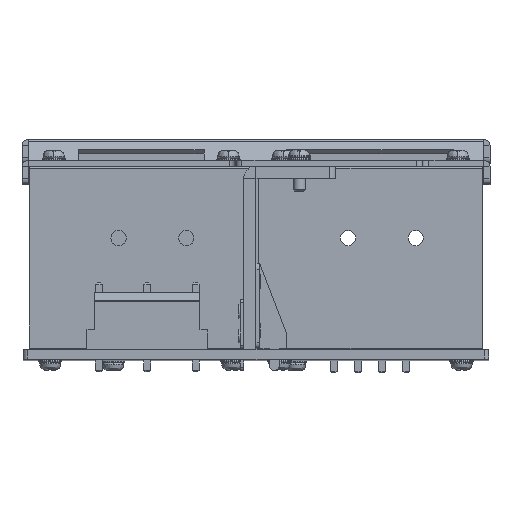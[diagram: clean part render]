
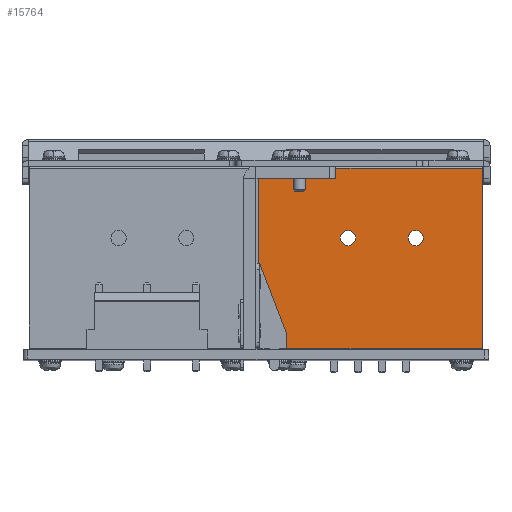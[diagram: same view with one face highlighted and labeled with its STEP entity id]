
A CAD part, top view. The second image highlights one B-rep face of the part: STEP entity #15764.
In plain terms, the highlighted planar face has unit normal (0, 0, 1) as drawn and (-1, 0, 0) by its records, which use the part's own axes.
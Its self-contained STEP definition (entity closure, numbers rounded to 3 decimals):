
#14741=DIRECTION('',(0.,1.,0.));
#14742=VECTOR('',#14741,29.4);
#14743=CARTESIAN_POINT('',(0.,0.3,0.));
#14744=LINE('',#14743,#14742);
#14816=DIRECTION('',(0.,1.,0.));
#14817=VECTOR('',#14816,29.4);
#14818=CARTESIAN_POINT('',(0.,0.3,-36.6));
#14819=LINE('',#14818,#14817);
#14930=DIRECTION('',(0.,0.,-1.));
#14931=VECTOR('',#14930,36.6);
#14932=CARTESIAN_POINT('',(0.,29.7,0.));
#14933=LINE('',#14932,#14931);
#14937=DIRECTION('',(0.,0.,-1.));
#14938=VECTOR('',#14937,36.6);
#14939=CARTESIAN_POINT('',(0.,0.3,0.));
#14940=LINE('',#14939,#14938);
#14944=CARTESIAN_POINT('',(0.,18.3,-22.));
#14945=DIRECTION('',(-1.,0.,0.));
#14946=DIRECTION('',(0.,1.,0.));
#14947=AXIS2_PLACEMENT_3D('',#14944,#14945,#14946);
#14952=CARTESIAN_POINT('',(0.,18.3,-22.));
#14953=DIRECTION('',(-1.,0.,0.));
#14954=DIRECTION('',(0.,-1.,0.));
#14955=AXIS2_PLACEMENT_3D('',#14952,#14953,#14954);
#14960=CARTESIAN_POINT('',(0.,18.3,-10.9));
#14961=DIRECTION('',(-1.,0.,0.));
#14962=DIRECTION('',(0.,1.,0.));
#14963=AXIS2_PLACEMENT_3D('',#14960,#14961,#14962);
#14968=CARTESIAN_POINT('',(0.,18.3,-10.9));
#14969=DIRECTION('',(-1.,0.,0.));
#14970=DIRECTION('',(0.,-1.,0.));
#14971=AXIS2_PLACEMENT_3D('',#14968,#14969,#14970);
#15407=CARTESIAN_POINT('',(0.,29.7,0.));
#15409=VERTEX_POINT('',#15407);
#15412=CARTESIAN_POINT('',(0.,29.7,-36.6));
#15413=VERTEX_POINT('',#15412);
#15414=CARTESIAN_POINT('',(0.,0.3,0.));
#15416=VERTEX_POINT('',#15414);
#15418=CARTESIAN_POINT('',(0.,0.3,-36.6));
#15419=VERTEX_POINT('',#15418);
#15430=CARTESIAN_POINT('',(0.,17.05,-22.));
#15431=VERTEX_POINT('',#15430);
#15434=CARTESIAN_POINT('',(0.,19.55,-22.));
#15435=VERTEX_POINT('',#15434);
#15442=CARTESIAN_POINT('',(0.,17.05,-10.9));
#15443=VERTEX_POINT('',#15442);
#15446=CARTESIAN_POINT('',(0.,19.55,-10.9));
#15447=VERTEX_POINT('',#15446);
#15740=CARTESIAN_POINT('',(0.,30.,0.));
#15741=DIRECTION('',(-1.,0.,0.));
#15742=DIRECTION('',(0.,-1.,0.));
#15743=AXIS2_PLACEMENT_3D('',#15740,#15741,#15742);
#15744=PLANE('',#15743);
#15745=ORIENTED_EDGE('',*,*,#15721,.F.);
#15746=ORIENTED_EDGE('',*,*,#15529,.F.);
#15748=ORIENTED_EDGE('',*,*,#15747,.T.);
#15749=ORIENTED_EDGE('',*,*,#15595,.T.);
#15750=EDGE_LOOP('',(#15745,#15746,#15748,#15749));
#15751=FACE_OUTER_BOUND('',#15750,.F.);
#15753=ORIENTED_EDGE('',*,*,#15752,.T.);
#15755=ORIENTED_EDGE('',*,*,#15754,.T.);
#15756=EDGE_LOOP('',(#15753,#15755));
#15757=FACE_BOUND('',#15756,.F.);
#15759=ORIENTED_EDGE('',*,*,#15758,.T.);
#15761=ORIENTED_EDGE('',*,*,#15760,.T.);
#15762=EDGE_LOOP('',(#15759,#15761));
#15763=FACE_BOUND('',#15762,.F.);
#14948=CIRCLE('',#14947,1.25);
#14956=CIRCLE('',#14955,1.25);
#14964=CIRCLE('',#14963,1.25);
#14972=CIRCLE('',#14971,1.25);
#15529=EDGE_CURVE('',#15416,#15409,#14744,.T.);
#15595=EDGE_CURVE('',#15419,#15413,#14819,.T.);
#15721=EDGE_CURVE('',#15409,#15413,#14933,.T.);
#15747=EDGE_CURVE('',#15416,#15419,#14940,.T.);
#15752=EDGE_CURVE('',#15435,#15431,#14948,.T.);
#15754=EDGE_CURVE('',#15431,#15435,#14956,.T.);
#15758=EDGE_CURVE('',#15447,#15443,#14964,.T.);
#15760=EDGE_CURVE('',#15443,#15447,#14972,.T.);
#15764=ADVANCED_FACE('',(#15751,#15757,#15763),#15744,.T.);
